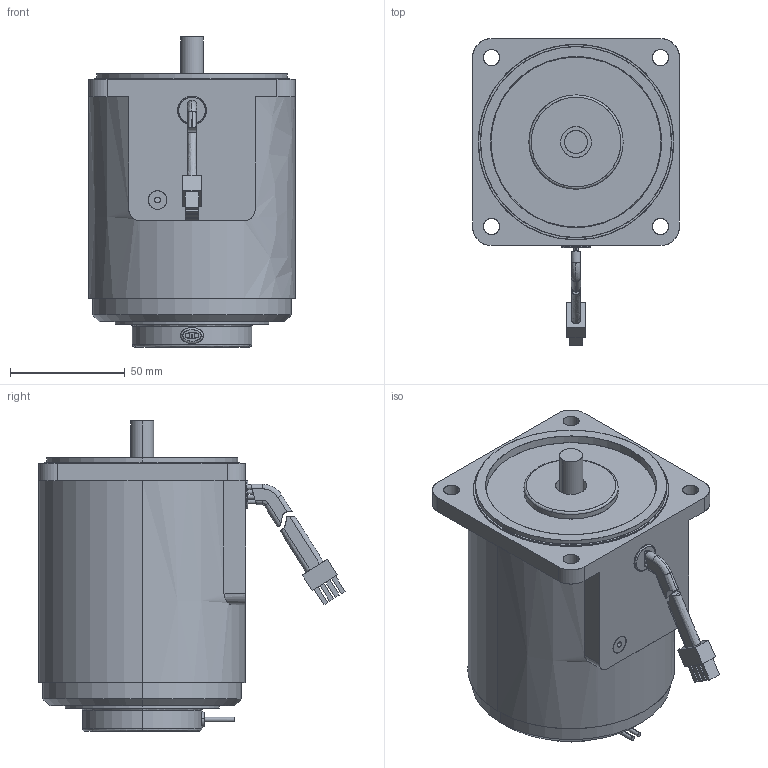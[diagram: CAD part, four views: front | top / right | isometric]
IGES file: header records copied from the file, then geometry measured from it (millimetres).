
Start section: SolidWorks IGES file using analytic representation for surfaces
Global section: file name: \\楷备家烹钦辑滚\data (D)\档搁 枚\权其捞瘤 档搁\7. SPEED INDUCTION\90\40W\(7-42) 9SDG∴-40G.IGS; native system: SolidWorks 2007; preprocessor: SolidWorks 2007; author: user; date: 150703.131331; units: millimetre
Bounding box: 90 x 133.4 x 135 mm (x, y, z)
Surface area: 106920.6 mm2 (no closed solid volume)
Topology: 0 solids, 0 shells, 229 faces, 4541 edges, 4541 vertices
Faces by surface type: bspline 143, revolution 86
